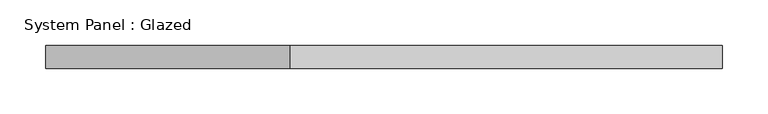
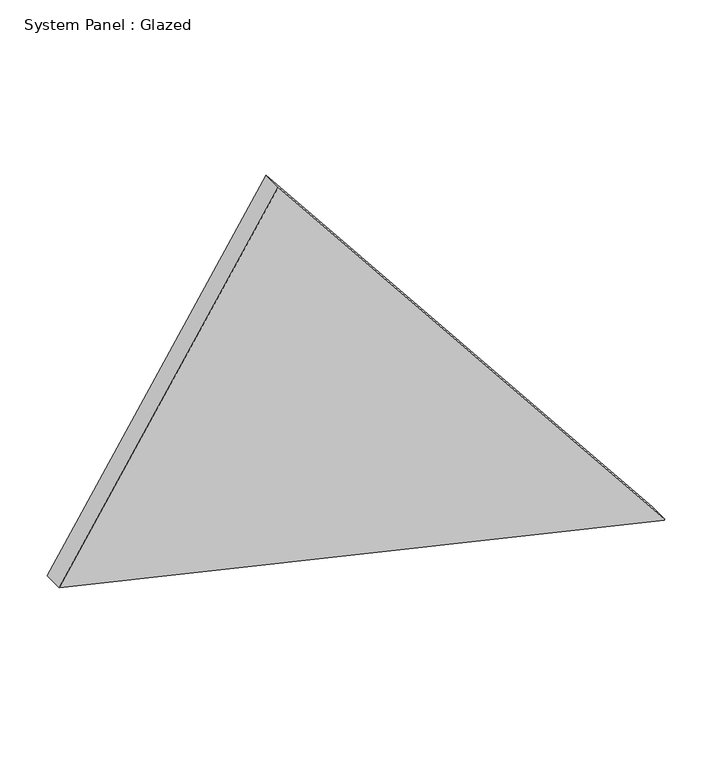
"""IFC4 building model written with IfcOpenShell, lengths in millimetres: plate geometry, System Panel : Glazed."""

import ifcopenshell
import ifcopenshell.guid

model = None  # the IFC model being written
_history = None  # IfcOwnerHistory: only IFC2X3 demands one
_inside = {}  # id of a spatial element -> (the spatial element, [elements in it])
_under = {}  # id of a project, library or spatial element -> (it, [spatial elements below it])
_declared = {}  # id of a project -> (the project, [libraries it declares])
_typed = {}  # id of a type object -> (the type object, [elements of that type])
_made_of = {}  # id of a material, layer set ... -> (it, [elements and type objects made of it])


def new_model(schema):
    """Start an empty IFC model of exactly this schema.

    Asked for "IFC4X3", IfcOpenShell would pick the latest addendum, in which some entities
    have other attributes; the version numbers below select the first issue.
    IFC2X3 requires an IfcOwnerHistory on every rooted entity: one is made here for all.
    """
    global model, _history
    if schema == "IFC4X3":
        model = ifcopenshell.file(schema_version=(4, 3, 0, 0))
    else:
        model = ifcopenshell.file(schema=schema)
    _inside.clear()
    _under.clear()
    _declared.clear()
    _typed.clear()
    _made_of.clear()
    _history = None
    if model.schema == "IFC2X3":
        org = make("IfcOrganization", Name="unknown")
        user = make(
            "IfcPersonAndOrganization",
            ThePerson=make("IfcPerson", FamilyName="unknown"),
            TheOrganization=org,
        )
        app = make(
            "IfcApplication",
            ApplicationDeveloper=org,
            Version="unknown",
            ApplicationFullName="unknown",
            ApplicationIdentifier="unknown",
        )
        _history = make(
            "IfcOwnerHistory",
            OwningUser=user,
            OwningApplication=app,
            ChangeAction="ADDED",
            CreationDate=0,
        )
    return model


def make(cls, **values):
    """One entity of the class cls with the attributes given. An attribute that is None is left unset."""
    return model.create_entity(
        cls, **{name: value for name, value in values.items() if value is not None}
    )


def rooted(cls, **values):
    """An entity with a GlobalId (a new one), such as an element, a storey or a relation."""
    return make(cls, GlobalId=ifcopenshell.guid.new(), OwnerHistory=_history, **values)


def si_unit(unit_type, name, prefix=None):
    """IfcSIUnit, for example si_unit("LENGTHUNIT", "METRE", prefix="MILLI")."""
    return make("IfcSIUnit", UnitType=unit_type, Prefix=prefix, Name=name)


def assignment(units):
    """IfcUnitAssignment: the units of a project."""
    return None if units is None else make("IfcUnitAssignment", Units=units)


def point(xyz):
    """IfcCartesianPoint."""
    return None if xyz is None else make("IfcCartesianPoint", Coordinates=xyz)


def direction(xyz):
    """IfcDirection."""
    return None if xyz is None else make("IfcDirection", DirectionRatios=xyz)


def frame(location, z_axis=None, x_axis=None):
    """IfcAxis2Placement3D, a coordinate frame: its origin and axes. An axis left out is left unset."""
    return make(
        "IfcAxis2Placement3D",
        Location=point(location),
        Axis=direction(z_axis),
        RefDirection=direction(x_axis),
    )


def origin():
    """The frame at (0, 0, 0) with its axes left unset."""
    return frame((0.0, 0.0, 0.0))


def place(relative_to, where):
    """IfcLocalPlacement: puts the frame where relative to a parent placement (None: the world)."""
    return make(
        "IfcLocalPlacement", PlacementRelTo=relative_to, RelativePlacement=where
    )


def context(
    kind, dimensions, precision=None, world=None, true_north=None, identifier=None
):
    """IfcGeometricRepresentationContext, for example the 3D "Model" context."""
    return make(
        "IfcGeometricRepresentationContext",
        ContextIdentifier=identifier,
        ContextType=kind,
        CoordinateSpaceDimension=dimensions,
        Precision=precision,
        WorldCoordinateSystem=world,
        TrueNorth=true_north,
    )


def project(units=None, contexts=None):
    """IfcProject with its units and contexts."""
    return rooted(
        "IfcProject",
        Name="project",
        RepresentationContexts=contexts,
        UnitsInContext=assignment(units),
    )


def spatial(cls, under=None, at=None, **own):
    """A site, building, storey or space (cls), placed at a placement, below another one or the project."""
    s = rooted(cls, ObjectPlacement=at, **own)
    if under is not None:
        _under.setdefault(under.id(), (under, []))[1].append(s)
    return s


def polyline(points):
    """IfcPolyline through the points."""
    return make("IfcPolyline", Points=[point(p) for p in points])


def outline(outer, holes=None, kind="AREA"):
    """IfcArbitraryClosedProfileDef: a profile drawn as a closed curve; with holes, ...WithVoids."""
    if holes is None:
        return make("IfcArbitraryClosedProfileDef", ProfileType=kind, OuterCurve=outer)
    return make(
        "IfcArbitraryProfileDefWithVoids",
        ProfileType=kind,
        OuterCurve=outer,
        InnerCurves=holes,
    )


def extrude(swept, where, along, depth):
    """IfcExtrudedAreaSolid: the profile swept, set in the frame where, extruded along a direction by depth."""
    return make(
        "IfcExtrudedAreaSolid",
        SweptArea=swept,
        Position=where,
        ExtrudedDirection=direction(along),
        Depth=depth,
    )


def shape(context_of_items, identifier, shape_type, items):
    """IfcShapeRepresentation: the items that make up one representation, for example the "Body"."""
    return make(
        "IfcShapeRepresentation",
        ContextOfItems=context_of_items,
        RepresentationIdentifier=identifier,
        RepresentationType=shape_type,
        Items=items,
    )


def source(mapping_origin, context_of_items, identifier, shape_type, items):
    """IfcRepresentationMap: a shape defined once, which mapped items show again and again."""
    return make(
        "IfcRepresentationMap",
        MappingOrigin=mapping_origin,
        MappedRepresentation=shape(context_of_items, identifier, shape_type, items),
    )


def transform(
    local_origin,
    x_axis=None,
    y_axis=None,
    z_axis=None,
    scale=None,
    scale2=None,
    scale3=None,
    uniform=True,
):
    """IfcCartesianTransformationOperator3D, or its non-uniform kind. x_axis, y_axis, z_axis: its Axis1, 2, 3."""
    if uniform:
        return make(
            "IfcCartesianTransformationOperator3D",
            Axis1=direction(x_axis),
            Axis2=direction(y_axis),
            LocalOrigin=point(local_origin),
            Scale=scale,
            Axis3=direction(z_axis),
        )
    return make(
        "IfcCartesianTransformationOperator3DnonUniform",
        Axis1=direction(x_axis),
        Axis2=direction(y_axis),
        LocalOrigin=point(local_origin),
        Scale=scale,
        Axis3=direction(z_axis),
        Scale2=scale2,
        Scale3=scale3,
    )


def mapped(mapping_source, mapping_target):
    """IfcMappedItem: shows the shape of a source again, moved by a transform."""
    return make(
        "IfcMappedItem", MappingSource=mapping_source, MappingTarget=mapping_target
    )


def made_of(thing, what):
    """Note that an element or type object is made of a material, layer set ...; save() writes the relation."""
    if what is not None:
        _made_of.setdefault(what.id(), (what, []))[1].append(thing)
    return thing


def element(
    cls,
    number,
    at=None,
    inside=None,
    cuts=None,
    type_object=None,
    material=None,
    context=None,
    identifier="Body",
    shape_type=None,
    held_by="IfcProductDefinitionShape",
    body=None,
    shapes=None,
    **own,
):
    """One element of the class cls, such as IfcWall. Its Tag is "e" and its number.

    at: its placement. inside: the storey or other place that contains it. cuts: it is an
    opening in that element (IfcRelVoidsElement). A single representation is given by context,
    identifier, shape_type and body (its items); several are given by shapes. held_by: the class
    of the entity that holds the representations. save() writes the other relations.
    """
    e = rooted(cls, Tag="e%d" % number, ObjectPlacement=at, **own)
    if body is not None:
        shapes = [shape(context, identifier, shape_type, body)]
    if shapes is not None:
        e.Representation = make(held_by, Representations=shapes)
    if inside is not None:
        _inside.setdefault(inside.id(), (inside, []))[1].append(e)
    if cuts is not None:
        rooted(
            "IfcRelVoidsElement", RelatingBuildingElement=cuts, RelatedOpeningElement=e
        )
    if type_object is not None:
        _typed.setdefault(type_object.id(), (type_object, []))[1].append(e)
    return made_of(e, material)


def aggregate(whole, parts):
    """IfcRelAggregates: a whole, such as a stair, and the parts it consists of."""
    return rooted("IfcRelAggregates", RelatingObject=whole, RelatedObjects=parts)


def save(model, path):
    """Write the relations noted so far, then the file.

    IfcRelAggregates (storeys below a building ...), IfcRelContainedInSpatialStructure (elements
    in a storey), IfcRelDefinesByType, IfcRelAssociatesMaterial and IfcRelDeclares: one each for
    every whole, place, type object, material and project.
    """
    for whole, parts in _under.values():
        aggregate(whole, parts)
    for where, things in _inside.values():
        rooted(
            "IfcRelContainedInSpatialStructure",
            RelatedElements=things,
            RelatingStructure=where,
        )
    for kind, things in _typed.values():
        rooted("IfcRelDefinesByType", RelatedObjects=things, RelatingType=kind)
    for what, things in _made_of.values():
        rooted("IfcRelAssociatesMaterial", RelatedObjects=things, RelatingMaterial=what)
    for by, libraries in _declared.values():
        rooted("IfcRelDeclares", RelatingContext=by, RelatedDefinitions=libraries)
    model.write(path)


def system_panel_glazed_61edb7d8(model_context):
    return source(origin(), model_context, "Body", "SweptSolid", [
        extrude(outline(polyline([(0.0, 371.0450478), (1.416945, 371.9407581), (598.3886795, -102.984894), (172.9211356, -371.9407581), (0.0, 371.0450478)])), frame((0.0, -44.45, 0.0), z_axis=(0.0, 1.0, 0.0), x_axis=(0.0, 0.0, 1.0)), (0.0, 0.0, 1.0), 25.4),
    ])


if __name__ == "__main__":
    model = new_model("IFC4")
    model_context = context("Model", 3, world=origin())
    ifc_project = project(units=[si_unit("LENGTHUNIT", "METRE", prefix="MILLI")], contexts=[model_context])
    site = spatial("IfcSite", under=ifc_project)
    building = spatial("IfcBuilding", under=site)
    placement = place(None, origin())
    system_panel_glazed_shape = system_panel_glazed_61edb7d8(model_context)
    element("IfcPlate", 1, ObjectType="System Panel : Glazed", at=placement, inside=building, context=model_context, shape_type="MappedRepresentation", body=[
        mapped(system_panel_glazed_shape, transform((0.0, 0.0, 0.0), x_axis=(1.0, 0.0, 0.0), y_axis=(0.0, 1.0, 0.0), z_axis=(0.0, 0.0, 1.0))),
    ])
    save(model, "model.ifc")
